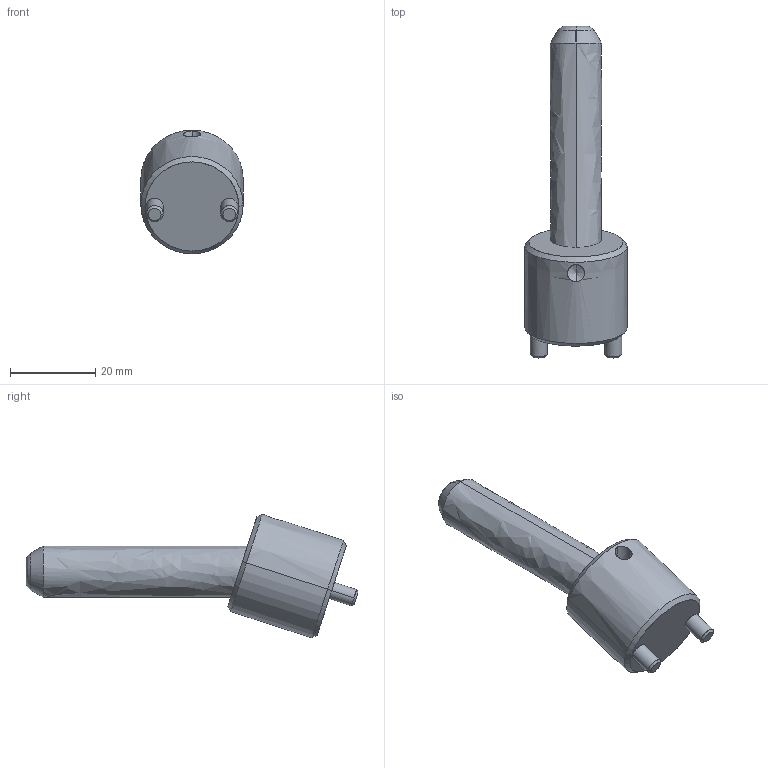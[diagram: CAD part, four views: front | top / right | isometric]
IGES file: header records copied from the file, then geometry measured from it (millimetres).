
Start section: START RECORD GO HERE.
Global section: file name: CI1812050.igs; native system: DASSAULT SYSTEMES CATIA V5 R20 - www.3ds.com; preprocessor: CATIA Version 5 Release 20 ; author: r.borello; organization: CFTORINO; date: 20190621.145717; units: millimetre
Bounding box: 24 x 77.87 x 29.01 mm (x, y, z)
Surface area: 6075 mm2 (no closed solid volume)
Topology: 0 solids, 0 shells, 39 faces, 162 edges, 160 vertices
Faces by surface type: revolution 32, plane 7
